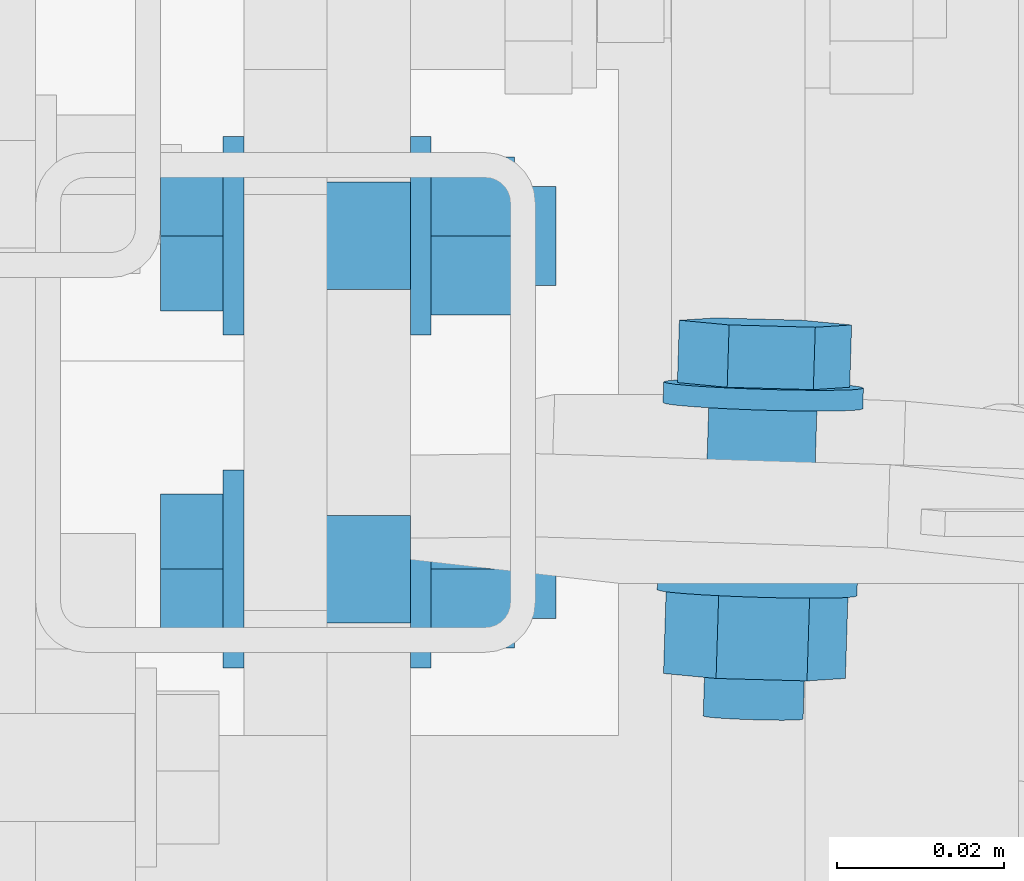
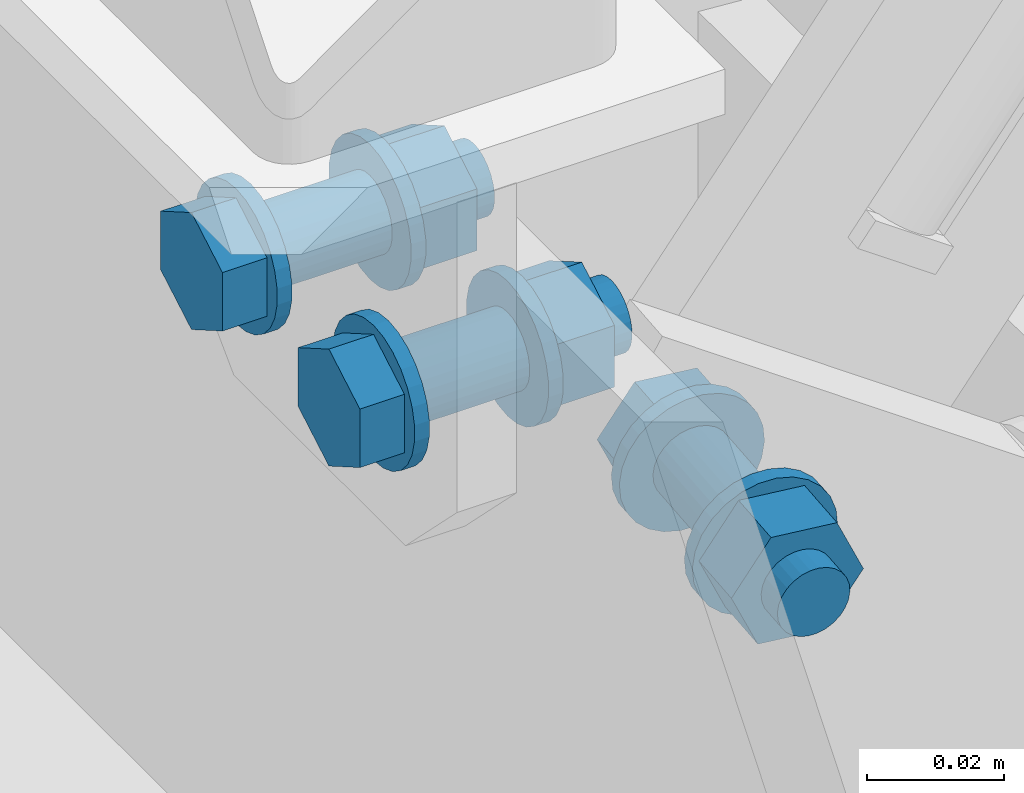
# One storey, part 250 of 271: 2 mechanical fasteners, 2 elements without a shape of their own.
"""IFC2X3 building model written with IfcOpenShell, lengths in millimetres."""

from ifc_helpers import new_model, si_unit, frame, origin_with_axes, origin_2d_with_axis, place, context, subcontext, project, spatial, polyline, circle, outline, extrude, source, transform, mapped, material, type_object, element, aggregate, save


model = new_model("IFC2X3")

# Units and contexts
model_context = context("Model", 3, precision=1e-05, world=origin_with_axes())
body_context = subcontext(model_context, "Body", "Model", "MODEL_VIEW")
ifc_project = project(units=[si_unit("LENGTHUNIT", "METRE", prefix="MILLI"), si_unit("AREAUNIT", "SQUARE_METRE"), si_unit("VOLUMEUNIT", "CUBIC_METRE"), si_unit("MASSUNIT", "GRAM", prefix="KILO"), si_unit("TIMEUNIT", "SECOND"), si_unit("PLANEANGLEUNIT", "RADIAN"), si_unit("SOLIDANGLEUNIT", "STERADIAN"), si_unit("THERMODYNAMICTEMPERATUREUNIT", "DEGREE_CELSIUS"), si_unit("LUMINOUSINTENSITYUNIT", "LUMEN")], contexts=[model_context])

# Site, building, storey
site_placement = place(None, origin_with_axes())
site = spatial("IfcSite", under=ifc_project, at=site_placement, Name="Undefined", CompositionType="ELEMENT")
building_placement = place(site_placement, origin_with_axes())
building = spatial("IfcBuilding", under=site, at=building_placement, Name="Undefined", CompositionType="ELEMENT")
storey_placement = place(building_placement, origin_with_axes())
storey = spatial("IfcBuildingStorey", under=building, at=storey_placement, Name="Undefined", CompositionType="ELEMENT", Elevation=0.0)

# Assembly, mechanical fastener
assembly_1_placement = place(storey_placement, origin_with_axes())
assembly_1 = element("IfcElementAssembly", 1, at=assembly_1_placement, inside=storey, AssemblyPlace="NOTDEFINED", PredefinedType="RIGID_FRAME")
ifc_material = material(Name="Undefined")
mechanical_fastener_type = type_object("IfcMechanicalFastenerType", Name="Bolt assembly")
shared_shape = source(origin_with_axes(), body_context, "Body", "SweptSolid", [
    extrude(circle(Radius=6.5, at=origin_2d_with_axis()), frame((0.0, -5.1, 0.0), z_axis=(0.0, 1.0, 0.0), x_axis=(1.0, 0.0, 0.0)), (0.0, 0.0, 1.0), 10.1),
    extrude(circle(Radius=6.5, at=origin_2d_with_axis()), frame((0.0, -14.9000000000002, 0.0), z_axis=(0.0, 1.0, 0.0), x_axis=(1.0, 0.0, 0.0)), (0.0, 0.0, 1.0), 10.0),
    extrude(outline(polyline([(10.39230484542, 0.0), (5.19615242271, 9.00000000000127), (-5.19615242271, 9.00000000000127), (-10.39230484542, 0.0), (-5.19615242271, -9.00000000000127), (5.19615242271, -9.00000000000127), (10.39230484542, 0.0)])), frame((0.0, -25.0000000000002, 0.0), z_axis=(0.0, 1.0, 0.0), x_axis=(1.0, 0.0, 0.0)), (0.0, 0.0, 1.0), 7.5),
    extrude(circle(Radius=6.0, at=origin_2d_with_axis()), frame((0.0, -17.5000000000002, 0.0), z_axis=(0.0, 1.0, 0.0), x_axis=(1.0, 0.0, 0.0)), (0.0, 0.0, 1.0), 40.0),
    extrude(circle(Radius=12.0, at=origin_2d_with_axis()), frame((0.0, -17.5000000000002, 0.0), z_axis=(0.0, 1.0, 0.0), x_axis=(1.0, 0.0, 0.0)), (0.0, 0.0, 1.0), 2.5),
    extrude(circle(Radius=12.0, at=origin_2d_with_axis()), frame((0.0, 5.00000000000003, 0.0), z_axis=(0.0, 1.0, 0.0), x_axis=(1.0, 0.0, 0.0)), (0.0, 0.0, 1.0), 2.5),
    extrude(outline(polyline([(10.96965511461, 0.0), (5.484827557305, 9.50000000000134), (-5.484827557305, 9.50000000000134), (-10.96965511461, 0.0), (-5.484827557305, -9.50000000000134), (5.484827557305, -9.50000000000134), (10.96965511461, 0.0)])), frame((0.0, 7.50000000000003, 0.0), z_axis=(0.0, 1.0, 0.0), x_axis=(1.0, 0.0, 0.0)), (0.0, 0.0, 1.0), 10.0),
])
mechanical_fastener_1_placement = place(assembly_1_placement, frame((179.861128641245, 4276.82262382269, 1445.01002427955), z_axis=(0.817327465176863, 0.0, -0.576173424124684), x_axis=(0.575326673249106, -0.0541946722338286, 0.816126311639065)))
mechanical_fastener_1 = element("IfcMechanicalFastener", 2, at=mechanical_fastener_1_placement, type_object=mechanical_fastener_type, material=ifc_material, Name="Bolt assembly", NominalDiameter=12.0, NominalLength=40.0, context=body_context, shape_type="MappedRepresentation", body=[
    mapped(shared_shape, transform((0.0, 0.0, 0.0))),
])
aggregate(assembly_1, [mechanical_fastener_1])

assembly_2_placement = place(storey_placement, origin_with_axes())
assembly_2 = element("IfcElementAssembly", 3, at=assembly_2_placement, inside=storey, AssemblyPlace="NOTDEFINED", PredefinedType="RIGID_FRAME")
mechanical_fastener_2_placement = place(assembly_2_placement, frame((132.999999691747, 4292.19355050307, 1492.64999985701), z_axis=(0.0, 1.0, 0.0), x_axis=(0.0, 0.0, 1.0)))
mechanical_fastener_2 = element("IfcMechanicalFastener", 4, at=mechanical_fastener_2_placement, type_object=mechanical_fastener_type, material=ifc_material, Name="Bolt assembly", NominalDiameter=12.0, NominalLength=40.0, context=body_context, shape_type="MappedRepresentation", body=[
    mapped(shared_shape, transform((0.0, 0.0, -20.0))),
    mapped(shared_shape, transform((0.0, 0.0, 20.0))),
])
aggregate(assembly_2, [mechanical_fastener_2])

save(model, "model.ifc")
